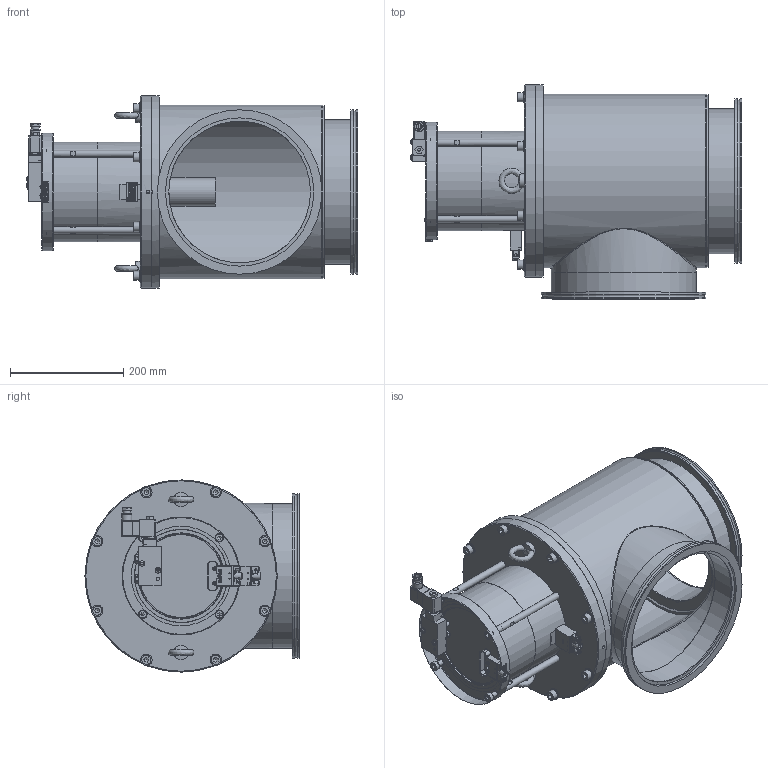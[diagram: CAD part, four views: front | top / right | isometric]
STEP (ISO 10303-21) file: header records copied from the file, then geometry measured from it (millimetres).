
FILE_DESCRIPTION(/* description */ (''),/* implementation_level */ '2;1');
FILE_NAME(/* name */ '1000224542_203.stp',/* time_stamp */ '2016-10-07T08:22:45+02:00',/* author */ (''),/* organization */ (''),/* preprocessor_version */ 'ST-DEVELOPER v15',/* originating_system */ 'SIEMENS PLM Software NX 9.0',/* authorisation */ '');
FILE_SCHEMA (('AP203_CONFIGURATION_CONTROLLED_3D_DESIGN_OF_MECHANICAL_PARTS_AND_ASSEMBLIES_MIM_LF { 1 0 10303 403 2 1 2}'));
Length unit declared in the file: millimetre
Products named in the file (47): 467863; 467864; n-6024-562; N-7501-502_1; N-7501-502_2; 499057; 499005; 499031; 499053; 499064; 499042; 366217; N-7100-016_4; 409474; n-6005-429.1; 244224.1; 323364.1; 323431.3; N-6195-007.2; 323395.1; 323388.3; N-7100-005_2.1; 323413.3; N-6024-022.1; N-6134-009.1; N-6061-003.2; N-6016-478.2; 80590-01.1; T-9001-055.1; 77379-01.1; 413954; 411767; 377229; 714822; n-6131-415.1; 395410; n-6033-005.1; 224833.1; N-8501-300_MODELNX-ARRAGMNTArrangement 1; N-7501-502_NX-ARRAGMNT0Â°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
Assembly tree (79 placements, depth 4):
  791563
    224833.1  x4
    n-6033-005.1  x2
    395410  x8
    n-6131-415.1  x8
    498993_MODEL
      498998
        499042
        499064
        499053
        499031  x2
        499005
        499057
    714822
    377229  x4
    411767
    413954
    418236
      77379-01.1
      T-9001-055.1
      80590-01.1
      N-6016-478.2  x2
      N-6061-003.2  x2
      N-6134-009.1  x2
      N-6024-022.1  x2
    323461.4_NX-ARRAGMNTBETAETIGT
      323413.3
      N-7100-005_2.1
      323388.3
      323395.1
      N-6195-007.2
      323431.3
      323364.1
    418235_MODEL
      77379-01.1
      T-9001-055.1
      244224.1  x2
      n-6005-429.1  x2
      409474
    582377_MODELNX-ARRAGMNT0_Grad
      N-7100-016_4  x2
      N-7501-502_NX-ARRAGMNT0Â°
        N-7501-502_2
        N-7501-502_1
        n-6024-562  x2
      366217  x2
      N-8501-300_MODELNX-ARRAGMNTArrangement 1
        467864
        467863
Bounding box: 584.04 x 377.5 x 339 mm (x, y, z)
Volume: 5520723.7 mm3; surface area: 1586555.4 mm2
Topology: 103 solids, 103 shells, 1643 faces, 3725 edges, 2402 vertices
Faces by surface type: plane 934, cylinder 433, cone 123, bspline 59, torus 46, extrusion 32, sphere 14, revolution 2
Full cylindrical faces by diameter (mm): 1.9 x1, 2.115 x8, 2.36 x2, 2.4 x2, 2.46 x2, 2.475 x1, 2.5 x14, 2.7 x1, 3 x15, 3.035 x1, 3.2 x2, 3.3 x3, 3.4 x2, 3.5 x8, 4 x2, 4.2 x2, 4.4 x2, 4.7 x2, 4.9 x1, 5 x6, 5.4 x2, 5.5 x9, 5.6 x2, 5.7 x1, 5.8 x2, 6 x7, 6.05 x1, 6.475 x1, 6.5 x4, 6.66 x4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
Entity records: 43386 total; most frequent: CARTESIAN_POINT 12023, DIRECTION 4864, ORIENTED_EDGE 4438, EDGE_CURVE 2219, AXIS2_PLACEMENT_3D 1932, EDGE_LOOP 1658, VERTEX_POINT 1616, ADVANCED_FACE 1109
